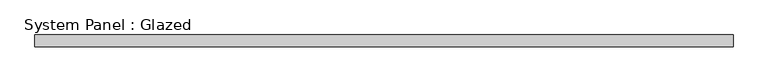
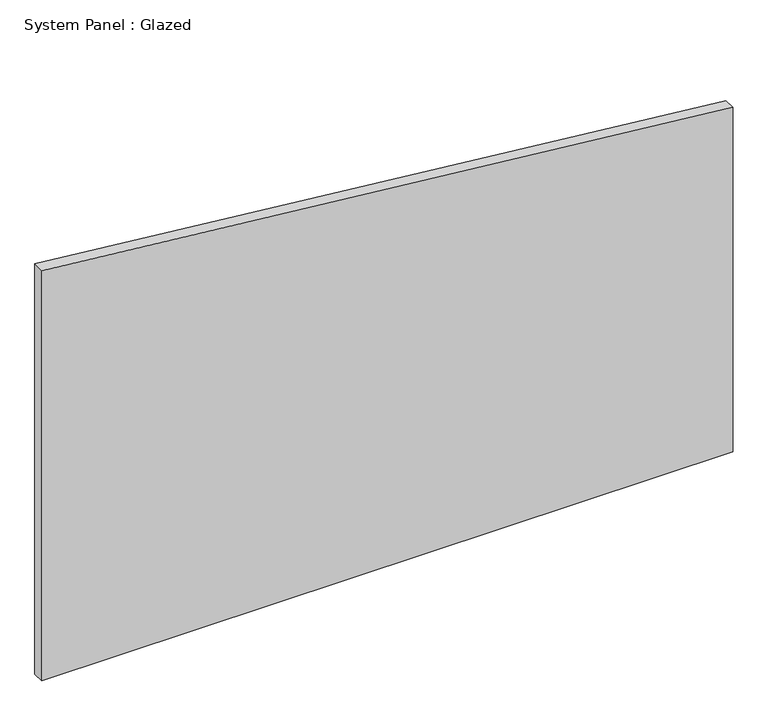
"""IFC4 building model written with IfcOpenShell, lengths in millimetres: plate geometry, System Panel : Glazed."""

from ifc_helpers import new_model, si_unit, frame, origin, place, context, project, spatial, polyline, outline, extrude, source, transform, mapped, element, save


def system_panel_glazed_86820237(model_context):
    return source(origin(), model_context, "Body", "SweptSolid", [
        extrude(outline(polyline([(0.0, -735.8695652), (0.0, 735.8695652), (775.42907, 735.8695652), (923.4120487, -735.8695652), (0.0, -735.8695652)])), frame((0.0, 24.5, 0.0), z_axis=(0.0, 1.0, 0.0), x_axis=(0.0, 0.0, 1.0)), (0.0, 0.0, 1.0), 25.0),
    ])


if __name__ == "__main__":
    model = new_model("IFC4")
    model_context = context("Model", 3, world=origin())
    ifc_project = project(units=[si_unit("LENGTHUNIT", "METRE", prefix="MILLI")], contexts=[model_context])
    site = spatial("IfcSite", under=ifc_project)
    building = spatial("IfcBuilding", under=site)
    placement = place(None, origin())
    system_panel_glazed_shape = system_panel_glazed_86820237(model_context)
    element("IfcPlate", 1, ObjectType="System Panel : Glazed", at=placement, inside=building, context=model_context, shape_type="MappedRepresentation", body=[
        mapped(system_panel_glazed_shape, transform((0.0, 0.0, 0.0), x_axis=(1.0, 0.0, 0.0), y_axis=(0.0, 1.0, 0.0), z_axis=(0.0, 0.0, 1.0))),
    ])
    save(model, "model.ifc")
